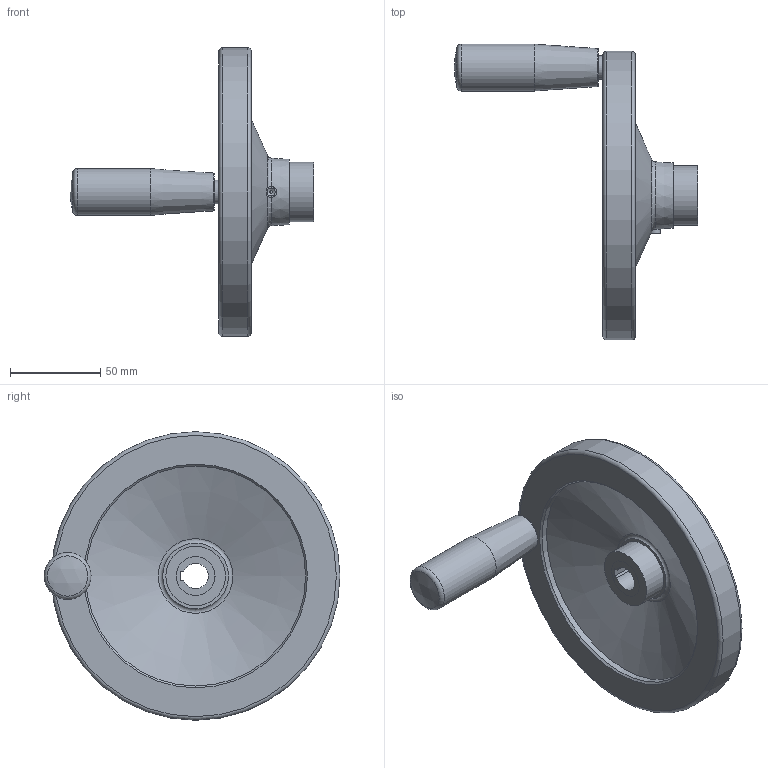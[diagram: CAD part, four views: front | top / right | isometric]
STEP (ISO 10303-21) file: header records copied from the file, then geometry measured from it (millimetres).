
FILE_DESCRIPTION (( 'STEP AP214' ), '1' );
FILE_NAME ('323.5-160-K14-D-ZI.step', '2022-04-05T10:37:17', ( '' ), ( '' ), 'SwSTEP 2.0', 'SolidWorks 2019', '' );
FILE_SCHEMA (( 'AUTOMOTIVE_DESIGN' ));
Length unit declared in the file: millimetre
Products named in the file (1): 323.5-160-K14-D-ZI
Bounding box: 134.92 x 164 x 160 mm (x, y, z)
Volume: 252873 mm3; surface area: 68729.7 mm2
Topology: 1 solids, 1 shells, 150 faces, 334 edges, 197 vertices
Faces by surface type: bspline 63, cone 25, plane 25, torus 24, cylinder 12, sphere 1
Full cylindrical faces by diameter (mm): 13 x1, 21.5 x2, 21.52 x2, 26 x1, 33 x2, 122 x1, 160 x1
Entity records: 7600 total; most frequent: CARTESIAN_POINT 4529, ORIENTED_EDGE 610, DIRECTION 476, EDGE_CURVE 305, AXIS2_PLACEMENT_3D 233, VERTEX_POINT 190, EDGE_LOOP 185, FACE_OUTER_BOUND 165
